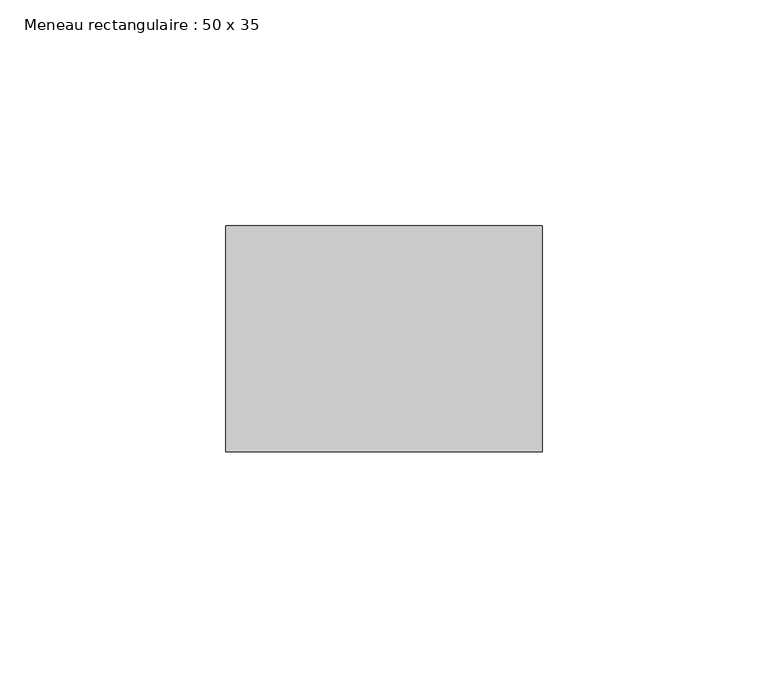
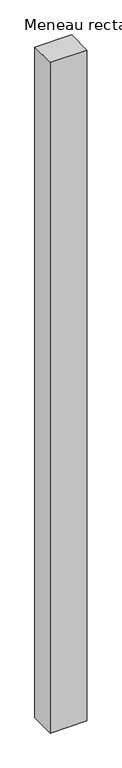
"""IFC4 building model written with IfcOpenShell, lengths in millimetres: member geometry, Meneau rectangulaire : 50 x 35."""

from ifc_helpers import new_model, si_unit, frame, origin, place, context, project, spatial, polyline, outline, extrude, source, transform, mapped, element, save


def meneau_rectangulaire_50_x_35_cc9ef2db(model_context):
    return source(origin(), model_context, "Body", "SweptSolid", [
        extrude(outline(polyline([(0.0, 0.0), (0.0, -50.0), (-70.0, -50.0), (-70.0, 0.0), (0.0, 0.0)])), frame((0.0, 0.0, -1347.6442441), z_axis=(0.0, 0.0, 1.0), x_axis=(1.0, 0.0, 0.0)), (0.0, 0.0, 1.0), 1347.6442441),
    ])


if __name__ == "__main__":
    model = new_model("IFC4")
    model_context = context("Model", 3, world=origin())
    ifc_project = project(units=[si_unit("LENGTHUNIT", "METRE", prefix="MILLI")], contexts=[model_context])
    site = spatial("IfcSite", under=ifc_project)
    building = spatial("IfcBuilding", under=site)
    placement = place(None, origin())
    meneau_rectangulaire_50_x_35_shape = meneau_rectangulaire_50_x_35_cc9ef2db(model_context)
    element("IfcMember", 1, ObjectType="Meneau rectangulaire : 50 x 35", at=placement, inside=building, context=model_context, shape_type="MappedRepresentation", body=[
        mapped(meneau_rectangulaire_50_x_35_shape, transform((0.0, 0.0, 0.0), x_axis=(1.0, 0.0, 0.0), y_axis=(0.0, 1.0, 0.0), z_axis=(0.0, 0.0, 1.0))),
    ])
    save(model, "model.ifc")
